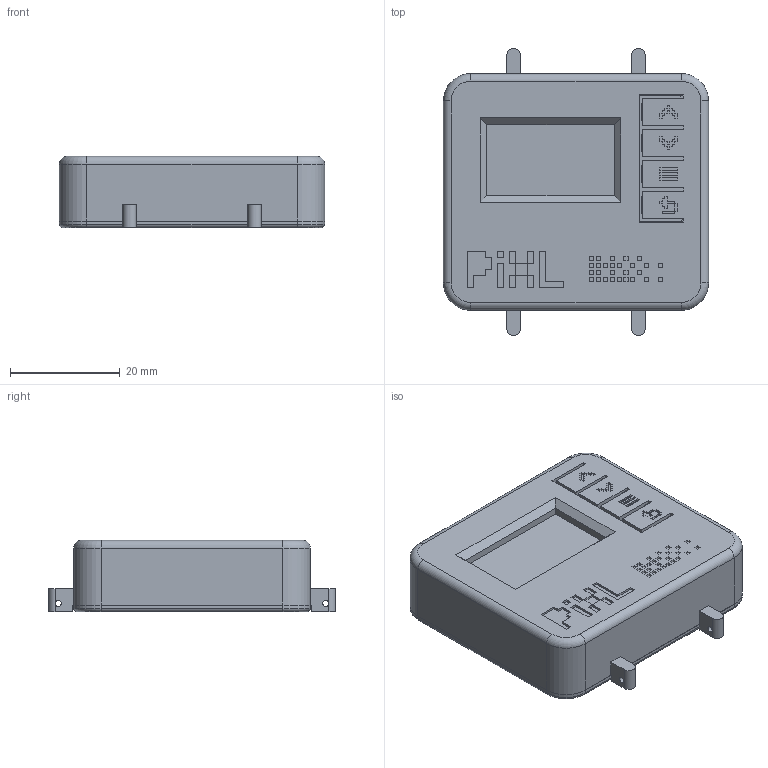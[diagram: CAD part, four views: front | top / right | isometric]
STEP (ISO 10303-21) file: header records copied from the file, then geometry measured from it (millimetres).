
FILE_DESCRIPTION(/* description */ (''),/* implementation_level */ '2;1');
FILE_NAME(/* name */ 'PIXL_case_v7_assembly.step',/* time_stamp */ '2026-11-07T10:05:54+01:00',/* author */ (''),/* organization */ (''),/* preprocessor_version */ 'ST-DEVELOPER v20.2',/* originating_system */ 'Autodesk Translation Framework v15.17.0.0',/* authorisation */ '');
FILE_SCHEMA (('AUTOMOTIVE_DESIGN { 1 0 10303 214 3 1 1 }'));
Length unit declared in the file: millimetre
Products named in the file (5): PIXL case; 0.96Oled_W_4_Buttons; PIXL Shell v7; PIXL Back v7; Internals v7 (reference)
Assembly tree (4 placements, depth 2):
  PIXL case
    0.96Oled_W_4_Buttons
    PIXL Shell v7
    PIXL Back v7
    Internals v7 (reference)
Bounding box: 48.4 x 52.4 x 13 mm (x, y, z)
Volume: 17765.2 mm3; surface area: 20692.8 mm2
Topology: 9 solids, 9 shells, 1492 faces, 3857 edges, 2516 vertices
Faces by surface type: plane 981, bspline 404, cylinder 99, torus 8
Full cylindrical faces by diameter (mm): 1.1 x4, 1.7 x4, 1.76 x4, 2 x4, 2.2 x4, 2.4 x8, 3 x4, 3.9 x4, 10 x1, 20 x1, 20.6 x1
Entity records: 48886 total; most frequent: CARTESIAN_POINT 14742, ORIENTED_EDGE 7714, DIRECTION 5453, EDGE_CURVE 3857, LINE 2839, VECTOR 2839, VERTEX_POINT 2516, EDGE_LOOP 1661
